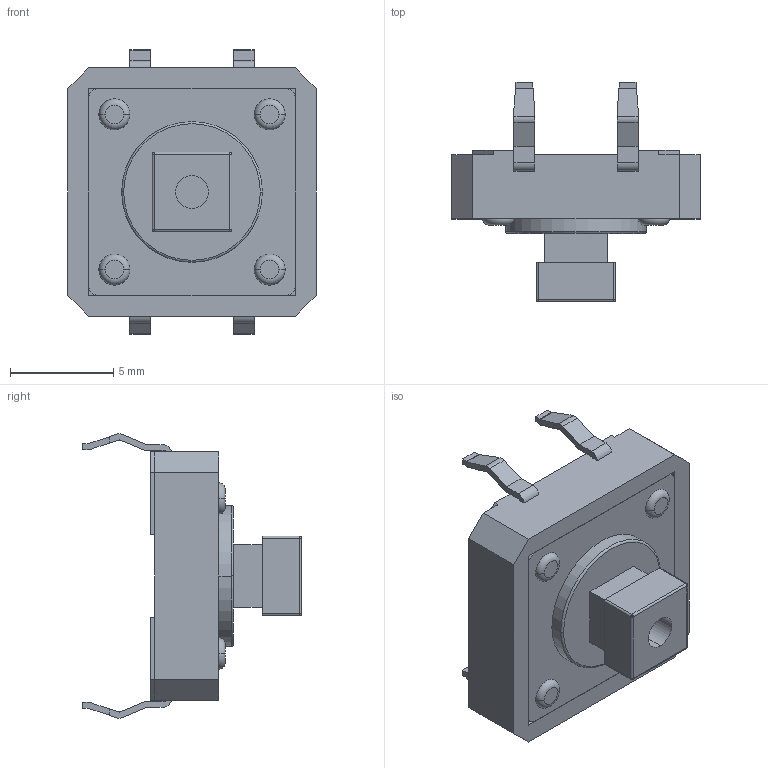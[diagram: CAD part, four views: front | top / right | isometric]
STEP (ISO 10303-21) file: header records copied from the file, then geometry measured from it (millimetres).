
FILE_DESCRIPTION((''),'2;1');
FILE_NAME('JQB1212-C0431-01G-101_ASM','2026-05-25T18:17:01',('Admin'),(''),'CREO PARAMETRIC BY PTC INC, 2019224','CREO PARAMETRIC BY PTC INC, 2019224','');
FILE_SCHEMA(('AUTOMOTIVE_DESIGN { 1 0 10303 214 1 1 1 1 }'));
Length unit declared in the file: millimetre
Products named in the file (3): JQB1212-C0431-01G-101_04; JQB1212-C0431-01G-101_05; JQB1212-C0431-01G-101_ASM
Assembly tree (2 placements, depth 2):
  JQB1212-C0431-01G-101_ASM
    JQB1212-C0431-01G-101_04
    JQB1212-C0431-01G-101_05
Bounding box: 12 x 10.6 x 13.75 mm (x, y, z)
Volume: 513.1 mm3; surface area: 853.9 mm2
Topology: 3 solids, 3 shells, 186 faces, 489 edges, 336 vertices
Faces by surface type: plane 118, cylinder 54, torus 10, sphere 4
Entity records: 7934 total; most frequent: CARTESIAN_POINT 1039, DIRECTION 987, ORIENTED_EDGE 956, PRESENTATION_STYLE_ASSIGNMENT 512, EDGE_CURVE 478, STYLED_ITEM 440, CURVE_STYLE 438, VECTOR 353
